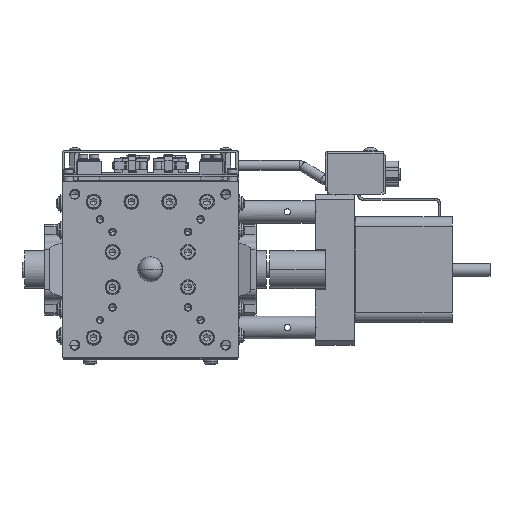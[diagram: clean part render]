
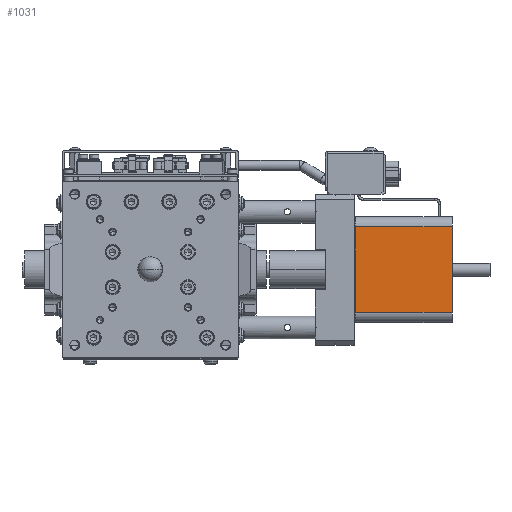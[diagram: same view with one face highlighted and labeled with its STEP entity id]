
A CAD part, top view. The second image highlights one B-rep face of the part: STEP entity #1031.
In plain terms, the highlighted planar face has unit normal (0, 0, 1).
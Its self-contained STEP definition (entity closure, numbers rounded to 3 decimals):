
#1031=ADVANCED_FACE('',(#12523),#12522,.T.);
#12522=PLANE('',#43280);
#12523=FACE_OUTER_BOUND('',#43281,.T.);
#43277=CARTESIAN_POINT('',(77.65,-20.4,33.5));
#43278=DIRECTION('',(0.,0.,1.));
#43279=DIRECTION('',(1.,0.,0.));
#43280=AXIS2_PLACEMENT_3D('',#43277,#43278,#43279);
#43281=EDGE_LOOP('',(#65106,#65107,#65108,#65109));
#65106=ORIENTED_EDGE('',*,*,#80375,.T.);
#65107=ORIENTED_EDGE('',*,*,#80376,.T.);
#65108=ORIENTED_EDGE('',*,*,#80377,.T.);
#65109=ORIENTED_EDGE('',*,*,#80378,.T.);
#80375=EDGE_CURVE('',#105016,#105017,#105018,.T.);
#80376=EDGE_CURVE('',#105017,#105024,#105025,.T.);
#80377=EDGE_CURVE('',#105024,#105031,#105032,.T.);
#80378=EDGE_CURVE('',#105031,#105016,#105038,.T.);
#105016=VERTEX_POINT('',#153621);
#105017=VERTEX_POINT('',#153622);
#105018=LINE('',#153623,#153624);
#105024=VERTEX_POINT('',#153626);
#105025=LINE('',#153627,#153628);
#105031=VERTEX_POINT('',#153630);
#105032=LINE('',#153631,#153632);
#105038=LINE('',#153634,#153635);
#153621=CARTESIAN_POINT('',(120.,17.,33.5));
#153622=CARTESIAN_POINT('',(81.5,17.,33.5));
#153623=CARTESIAN_POINT('',(120.,17.,33.5));
#153624=VECTOR('',#153625,38.5);
#153625=DIRECTION('',(-1.,0.,0.));
#153626=CARTESIAN_POINT('',(81.5,-17.,33.5));
#153627=CARTESIAN_POINT('',(81.5,17.,33.5));
#153628=VECTOR('',#153629,34.);
#153629=DIRECTION('',(0.,-1.,0.));
#153630=CARTESIAN_POINT('',(120.,-17.,33.5));
#153631=CARTESIAN_POINT('',(81.5,-17.,33.5));
#153632=VECTOR('',#153633,38.5);
#153633=DIRECTION('',(1.,0.,0.));
#153634=CARTESIAN_POINT('',(120.,-17.,33.5));
#153635=VECTOR('',#153636,34.);
#153636=DIRECTION('',(0.,1.,0.));
